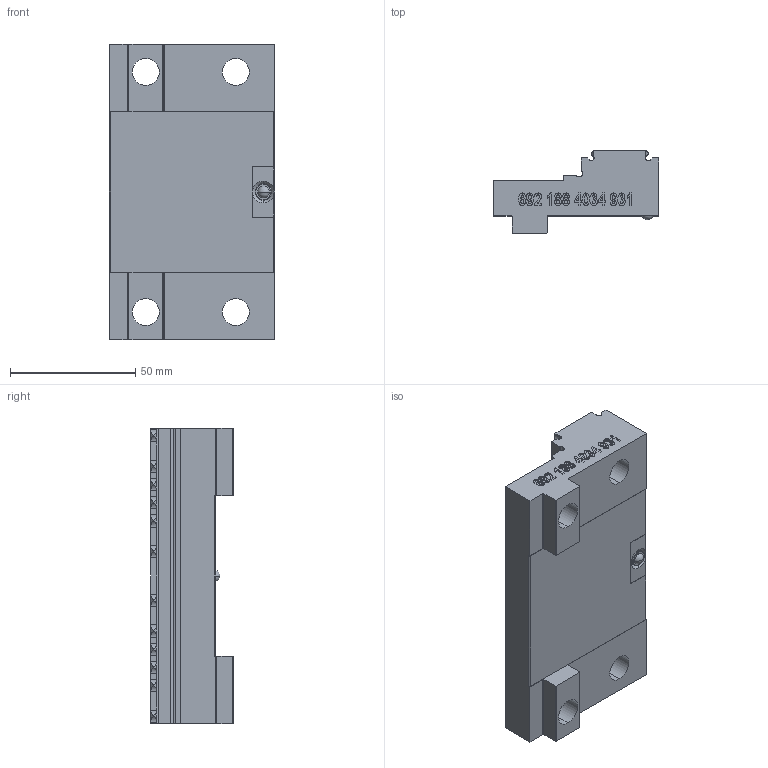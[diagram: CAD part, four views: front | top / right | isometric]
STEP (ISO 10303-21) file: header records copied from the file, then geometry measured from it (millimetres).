
FILE_DESCRIPTION (( 'STEP AP214' ), '1' );
FILE_NAME ('6921884034931.STEP', '2018-10-17T10:49:54', ( '' ), ( '' ), 'SwSTEP 2.0', 'SolidWorks 2016', '' );
FILE_SCHEMA (( 'AUTOMOTIVE_DESIGN' ));
Length unit declared in the file: millimetre
Products named in the file (1): 6921884034931
Bounding box: 66 x 33 x 118 mm (x, y, z)
Volume: 141081.8 mm3; surface area: 29477.9 mm2
Topology: 2 solids, 2 shells, 427 faces, 1128 edges, 732 vertices
Faces by surface type: plane 217, bspline 117, cylinder 81, torus 6, cone 4, sphere 2
Entity records: 18892 total; most frequent: CARTESIAN_POINT 9396, ORIENTED_EDGE 2252, DIRECTION 1454, EDGE_CURVE 1126, VERTEX_POINT 732, VECTOR 662, LINE 662, EDGE_LOOP 464
